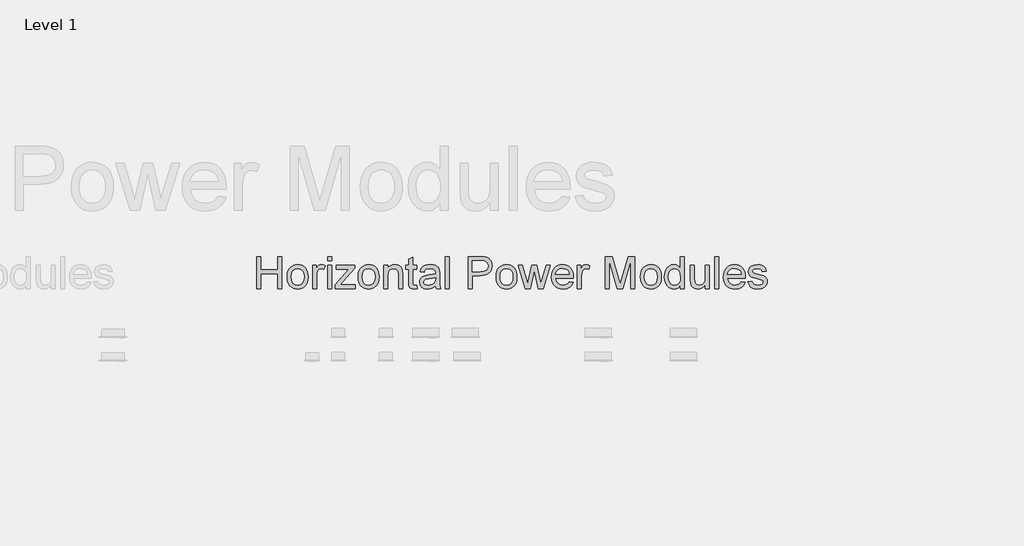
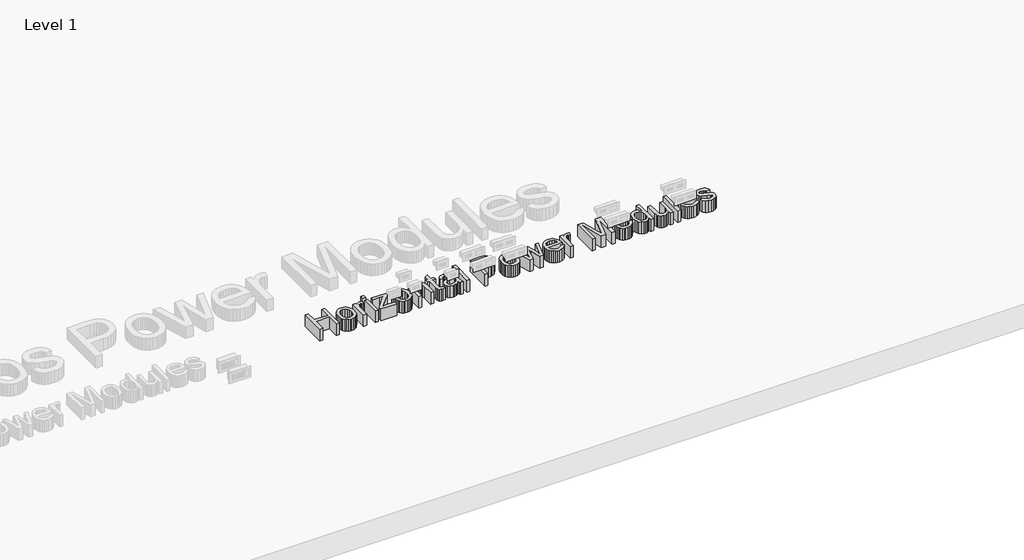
# One storey, part 19 of 22: 1 proxy.
"""IFC4 building model written with IfcOpenShell, lengths in millimetres."""

import ifcopenshell
import ifcopenshell.guid

model = None  # the IFC model being written
_history = None  # IfcOwnerHistory: only IFC2X3 demands one
_inside = {}  # id of a spatial element -> (the spatial element, [elements in it])
_under = {}  # id of a project, library or spatial element -> (it, [spatial elements below it])
_declared = {}  # id of a project -> (the project, [libraries it declares])
_typed = {}  # id of a type object -> (the type object, [elements of that type])
_made_of = {}  # id of a material, layer set ... -> (it, [elements and type objects made of it])


def new_model(schema):
    """Start an empty IFC model of exactly this schema.

    Asked for "IFC4X3", IfcOpenShell would pick the latest addendum, in which some entities
    have other attributes; the version numbers below select the first issue.
    IFC2X3 requires an IfcOwnerHistory on every rooted entity: one is made here for all.
    """
    global model, _history
    if schema == "IFC4X3":
        model = ifcopenshell.file(schema_version=(4, 3, 0, 0))
    else:
        model = ifcopenshell.file(schema=schema)
    _inside.clear()
    _under.clear()
    _declared.clear()
    _typed.clear()
    _made_of.clear()
    _history = None
    if model.schema == "IFC2X3":
        org = make("IfcOrganization", Name="unknown")
        user = make(
            "IfcPersonAndOrganization",
            ThePerson=make("IfcPerson", FamilyName="unknown"),
            TheOrganization=org,
        )
        app = make(
            "IfcApplication",
            ApplicationDeveloper=org,
            Version="unknown",
            ApplicationFullName="unknown",
            ApplicationIdentifier="unknown",
        )
        _history = make(
            "IfcOwnerHistory",
            OwningUser=user,
            OwningApplication=app,
            ChangeAction="ADDED",
            CreationDate=0,
        )
    return model


def make(cls, **values):
    """One entity of the class cls with the attributes given. An attribute that is None is left unset."""
    return model.create_entity(
        cls, **{name: value for name, value in values.items() if value is not None}
    )


def rooted(cls, **values):
    """An entity with a GlobalId (a new one), such as an element, a storey or a relation."""
    return make(cls, GlobalId=ifcopenshell.guid.new(), OwnerHistory=_history, **values)


def si_unit(unit_type, name, prefix=None):
    """IfcSIUnit, for example si_unit("LENGTHUNIT", "METRE", prefix="MILLI")."""
    return make("IfcSIUnit", UnitType=unit_type, Prefix=prefix, Name=name)


def assignment(units):
    """IfcUnitAssignment: the units of a project."""
    return None if units is None else make("IfcUnitAssignment", Units=units)


def point(xyz):
    """IfcCartesianPoint."""
    return None if xyz is None else make("IfcCartesianPoint", Coordinates=xyz)


def direction(xyz):
    """IfcDirection."""
    return None if xyz is None else make("IfcDirection", DirectionRatios=xyz)


def frame(location, z_axis=None, x_axis=None):
    """IfcAxis2Placement3D, a coordinate frame: its origin and axes. An axis left out is left unset."""
    return make(
        "IfcAxis2Placement3D",
        Location=point(location),
        Axis=direction(z_axis),
        RefDirection=direction(x_axis),
    )


def origin():
    """The frame at (0, 0, 0) with its axes left unset."""
    return frame((0.0, 0.0, 0.0))


def origin_with_axes():
    """The frame at (0, 0, 0) with the z axis (0, 0, 1) and the x axis (1, 0, 0) written out."""
    return frame((0.0, 0.0, 0.0), z_axis=(0.0, 0.0, 1.0), x_axis=(1.0, 0.0, 0.0))


def place(relative_to, where):
    """IfcLocalPlacement: puts the frame where relative to a parent placement (None: the world)."""
    return make(
        "IfcLocalPlacement", PlacementRelTo=relative_to, RelativePlacement=where
    )


def context(
    kind, dimensions, precision=None, world=None, true_north=None, identifier=None
):
    """IfcGeometricRepresentationContext, for example the 3D "Model" context."""
    return make(
        "IfcGeometricRepresentationContext",
        ContextIdentifier=identifier,
        ContextType=kind,
        CoordinateSpaceDimension=dimensions,
        Precision=precision,
        WorldCoordinateSystem=world,
        TrueNorth=true_north,
    )


def project(units=None, contexts=None):
    """IfcProject with its units and contexts."""
    return rooted(
        "IfcProject",
        Name="project",
        RepresentationContexts=contexts,
        UnitsInContext=assignment(units),
    )


def spatial(cls, under=None, at=None, **own):
    """A site, building, storey or space (cls), placed at a placement, below another one or the project."""
    s = rooted(cls, ObjectPlacement=at, **own)
    if under is not None:
        _under.setdefault(under.id(), (under, []))[1].append(s)
    return s


def polyline(points):
    """IfcPolyline through the points."""
    return make("IfcPolyline", Points=[point(p) for p in points])


def outline(outer, holes=None, kind="AREA"):
    """IfcArbitraryClosedProfileDef: a profile drawn as a closed curve; with holes, ...WithVoids."""
    if holes is None:
        return make("IfcArbitraryClosedProfileDef", ProfileType=kind, OuterCurve=outer)
    return make(
        "IfcArbitraryProfileDefWithVoids",
        ProfileType=kind,
        OuterCurve=outer,
        InnerCurves=holes,
    )


def extrude(swept, where, along, depth):
    """IfcExtrudedAreaSolid: the profile swept, set in the frame where, extruded along a direction by depth."""
    return make(
        "IfcExtrudedAreaSolid",
        SweptArea=swept,
        Position=where,
        ExtrudedDirection=direction(along),
        Depth=depth,
    )


def shape(context_of_items, identifier, shape_type, items):
    """IfcShapeRepresentation: the items that make up one representation, for example the "Body"."""
    return make(
        "IfcShapeRepresentation",
        ContextOfItems=context_of_items,
        RepresentationIdentifier=identifier,
        RepresentationType=shape_type,
        Items=items,
    )


def made_of(thing, what):
    """Note that an element or type object is made of a material, layer set ...; save() writes the relation."""
    if what is not None:
        _made_of.setdefault(what.id(), (what, []))[1].append(thing)
    return thing


def element(
    cls,
    number,
    at=None,
    inside=None,
    cuts=None,
    type_object=None,
    material=None,
    context=None,
    identifier="Body",
    shape_type=None,
    held_by="IfcProductDefinitionShape",
    body=None,
    shapes=None,
    **own,
):
    """One element of the class cls, such as IfcWall. Its Tag is "e" and its number.

    at: its placement. inside: the storey or other place that contains it. cuts: it is an
    opening in that element (IfcRelVoidsElement). A single representation is given by context,
    identifier, shape_type and body (its items); several are given by shapes. held_by: the class
    of the entity that holds the representations. save() writes the other relations.
    """
    e = rooted(cls, Tag="e%d" % number, ObjectPlacement=at, **own)
    if body is not None:
        shapes = [shape(context, identifier, shape_type, body)]
    if shapes is not None:
        e.Representation = make(held_by, Representations=shapes)
    if inside is not None:
        _inside.setdefault(inside.id(), (inside, []))[1].append(e)
    if cuts is not None:
        rooted(
            "IfcRelVoidsElement", RelatingBuildingElement=cuts, RelatedOpeningElement=e
        )
    if type_object is not None:
        _typed.setdefault(type_object.id(), (type_object, []))[1].append(e)
    return made_of(e, material)


def aggregate(whole, parts):
    """IfcRelAggregates: a whole, such as a stair, and the parts it consists of."""
    return rooted("IfcRelAggregates", RelatingObject=whole, RelatedObjects=parts)


def save(model, path):
    """Write the relations noted so far, then the file.

    IfcRelAggregates (storeys below a building ...), IfcRelContainedInSpatialStructure (elements
    in a storey), IfcRelDefinesByType, IfcRelAssociatesMaterial and IfcRelDeclares: one each for
    every whole, place, type object, material and project.
    """
    for whole, parts in _under.values():
        aggregate(whole, parts)
    for where, things in _inside.values():
        rooted(
            "IfcRelContainedInSpatialStructure",
            RelatedElements=things,
            RelatingStructure=where,
        )
    for kind, things in _typed.values():
        rooted("IfcRelDefinesByType", RelatedObjects=things, RelatingType=kind)
    for what, things in _made_of.values():
        rooted("IfcRelAssociatesMaterial", RelatedObjects=things, RelatingMaterial=what)
    for by, libraries in _declared.values():
        rooted("IfcRelDeclares", RelatingContext=by, RelatedDefinitions=libraries)
    model.write(path)


model = new_model("IFC4")

# Units and contexts
model_context = context("Model", 3, world=origin())
ifc_project = project(units=[si_unit("LENGTHUNIT", "METRE", prefix="MILLI")], contexts=[model_context])

# Site, building, storey
site = spatial("IfcSite", under=ifc_project)
building = spatial("IfcBuilding", under=site)
storey = spatial("IfcBuildingStorey", under=building, Name="Level 1", Elevation=0.0)

# Proxy
placement = place(None, origin())
element("IfcBuildingElementProxy", 1, Name="12\" Arial", ObjectType="12\" Arial", at=placement, inside=storey, context=model_context, shape_type="SweptSolid", body=[
    extrude(outline(polyline([(-12876.4764177, -4815.0855238), (-12876.4764177, -4510.5184297), (-12838.405531, -4510.5184297), (-12838.405531, -4634.2488117), (-12676.6042623, -4634.2488117), (-12676.6042623, -4510.5184297), (-12638.5333755, -4510.5184297), (-12638.5333755, -4815.0855238), (-12676.6042623, -4815.0855238), (-12676.6042623, -4672.3196984), (-12838.405531, -4672.3196984), (-12838.405531, -4815.0855238), (-12876.4764177, -4815.0855238)])), origin_with_axes(), (0.0, 0.0, 1.0), 152.4),
    extrude(outline(polyline([(-12586.1859062, -4703.2522939), (-12584.1271412, -4674.2855169), (-12577.9508462, -4649.3247341), (-12567.6570213, -4628.3699455), (-12553.2456663, -4611.4211511), (-12538.7367175, -4600.5882364), (-12522.7220354, -4592.8504402), (-12505.20162, -4588.2077625), (-12486.1754713, -4586.6602032), (-12465.1718857, -4588.5446935), (-12446.1805919, -4594.1981644), (-12429.2015899, -4603.620616), (-12414.2348796, -4616.8120481), (-12402.0193857, -4633.3263176), (-12393.2940329, -4652.7172814), (-12388.0588213, -4674.9849393), (-12386.3137507, -4700.1292915), (-12389.3995746, -4738.5905535), (-12398.657046, -4767.8687013), (-12413.8166203, -4789.7947809), (-12434.6087526, -4806.1998383), (-12459.3046379, -4816.433248), (-12486.1754713, -4819.8443846), (-12507.4857803, -4817.9668653), (-12526.6536724, -4812.3343073), (-12543.6791477, -4802.9467108), (-12558.5622062, -4789.8040755), (-12570.6475749, -4773.1294733), (-12579.2799812, -4753.1459756), (-12584.459425, -4729.8535825), (-12586.1859062, -4703.2522939)]), holes=[polyline([(-12548.1150195, -4703.1779367), (-12543.7093553, -4737.6332046), (-12530.4923629, -4762.1803755), (-12510.6018117, -4776.8752173), (-12486.1754713, -4781.7734979), (-12461.8606666, -4776.8473333), (-12442.0072941, -4762.0688397), (-12428.7903016, -4737.196356), (-12424.3846375, -4701.9882215), (-12428.8181856, -4668.5367758), (-12442.1188299, -4644.3242124), (-12462.0000864, -4629.6293706), (-12486.1754713, -4624.73109), (-12510.6018117, -4629.6107813), (-12530.4923629, -4644.2498552), (-12543.7093553, -4668.7412581), (-12548.1150195, -4703.1779367)])]), origin_with_axes(), (0.0, 0.0, 1.0), 152.4),
    extrude(outline(polyline([(-12343.4840031, -4815.0855238), (-12343.4840031, -4591.4190641), (-12310.1719772, -4591.4190641), (-12310.1719772, -4624.5080184), (-12297.8658605, -4605.3238606), (-12286.5263874, -4594.0215661), (-12275.1497357, -4588.5005439), (-12262.7320832, -4586.6602032), (-12243.770997, -4589.5973126), (-12224.512482, -4598.4086409), (-12237.2275633, -4632.5385961), (-12250.6118595, -4626.6829665), (-12263.9961556, -4624.73109), (-12275.3635126, -4626.6086093), (-12285.5225652, -4632.2411672), (-12293.7297412, -4641.2012099), (-12299.2414687, -4653.0611834), (-12303.8702045, -4674.3273428), (-12305.4131164, -4697.5267895), (-12305.4131164, -4815.0855238), (-12343.4840031, -4815.0855238)])), origin_with_axes(), (0.0, 0.0, 1.0), 152.4),
    extrude(outline(polyline([(-12200.7181778, -4815.0855238), (-12200.7181778, -4591.4190641), (-12162.647291, -4591.4190641), (-12162.647291, -4815.0855238), (-12200.7181778, -4815.0855238)])), origin_with_axes(), (0.0, 0.0, 1.0), 152.4),
    extrude(outline(polyline([(-12200.7181778, -4548.5893165), (-12200.7181778, -4510.5184297), (-12162.647291, -4510.5184297), (-12162.647291, -4548.5893165), (-12200.7181778, -4548.5893165)])), origin_with_axes(), (0.0, 0.0, 1.0), 152.4),
    extrude(outline(polyline([(-12129.3352651, -4815.0855238), (-12129.3352651, -4779.245353), (-11997.9460915, -4629.4899508), (-12036.8349074, -4629.4899508), (-12119.8175434, -4629.4899508), (-12119.8175434, -4591.4190641), (-11943.7396922, -4591.4190641), (-11943.7396922, -4623.7644464), (-12060.2574257, -4756.640764), (-12078.1031538, -4777.014637), (-12034.083691, -4777.014637), (-11938.9808313, -4777.014637), (-11938.9808313, -4815.0855238), (-12129.3352651, -4815.0855238)])), origin_with_axes(), (0.0, 0.0, 1.0), 152.4),
    extrude(outline(polyline([(-11910.4276662, -4703.2522939), (-11908.3689013, -4674.2855169), (-11902.1926063, -4649.3247341), (-11891.8987813, -4628.3699455), (-11877.4874263, -4611.4211511), (-11862.9784776, -4600.5882364), (-11846.9637955, -4592.8504402), (-11829.44338, -4588.2077625), (-11810.4172313, -4586.6602032), (-11789.4136458, -4588.5446935), (-11770.422352, -4594.1981644), (-11753.4433499, -4603.620616), (-11738.4766396, -4616.8120481), (-11726.2611458, -4633.3263176), (-11717.535793, -4652.7172814), (-11712.3005813, -4674.9849393), (-11710.5555108, -4700.1292915), (-11713.6413346, -4738.5905535), (-11722.8988061, -4767.8687013), (-11738.0583804, -4789.7947809), (-11758.8505126, -4806.1998383), (-11783.5463979, -4816.433248), (-11810.4172313, -4819.8443846), (-11831.7275403, -4817.9668653), (-11850.8954324, -4812.3343073), (-11867.9209077, -4802.9467108), (-11882.8039662, -4789.8040755), (-11894.889335, -4773.1294733), (-11903.5217412, -4753.1459756), (-11908.701185, -4729.8535825), (-11910.4276662, -4703.2522939)]), holes=[polyline([(-11872.3567795, -4703.1779367), (-11867.9511153, -4737.6332046), (-11854.7341229, -4762.1803755), (-11834.8435717, -4776.8752173), (-11810.4172313, -4781.7734979), (-11786.1024267, -4776.8473333), (-11766.2490541, -4762.0688397), (-11753.0320617, -4737.196356), (-11748.6263975, -4701.9882215), (-11753.0599456, -4668.5367758), (-11766.3605899, -4644.3242124), (-11786.2418464, -4629.6293706), (-11810.4172313, -4624.73109), (-11834.8435717, -4629.6107813), (-11854.7341229, -4644.2498552), (-11867.9511153, -4668.7412581), (-11872.3567795, -4703.1779367)])]), origin_with_axes(), (0.0, 0.0, 1.0), 152.4),
    extrude(outline(polyline([(-11667.7257632, -4815.0855238), (-11667.7257632, -4591.4190641), (-11629.6548764, -4591.4190641), (-11629.6548764, -4622.6490884), (-11616.4285893, -4606.9039511), (-11600.5440323, -4595.6574245), (-11582.0012054, -4588.9095085), (-11560.8001086, -4586.6602032), (-11542.03421, -4588.47266), (-11524.848402, -4593.9100303), (-11510.5160516, -4602.2938047), (-11500.3105258, -4612.9454737), (-11488.8966955, -4640.9409597), (-11486.8890511, -4677.7477741), (-11486.8890511, -4815.0855238), (-11524.9599378, -4815.0855238), (-11524.9599378, -4682.8784209), (-11529.3470127, -4649.194609), (-11535.4164192, -4639.1656816), (-11544.850489, -4631.3860594), (-11556.9428288, -4626.3948323), (-11570.9870451, -4624.73109), (-11593.2849106, -4628.4675393), (-11612.29247, -4639.6768873), (-11619.8885228, -4648.8274703), (-11625.3142748, -4661.333422), (-11629.6548764, -4696.4114315), (-11629.6548764, -4815.0855238), (-11667.7257632, -4815.0855238)])), origin_with_axes(), (0.0, 0.0, 1.0), 152.4),
    extrude(outline(polyline([(-11353.6409474, -4783.3349991), (-11348.8820866, -4816.2008818), (-11377.3608944, -4819.8443846), (-11395.6341765, -4818.2642941), (-11409.2601335, -4813.5240226), (-11418.889391, -4806.2184276), (-11425.1725745, -4796.9423668), (-11428.6301843, -4781.0113365), (-11429.7827209, -4753.7408332), (-11429.7827209, -4629.4899508), (-11458.335886, -4629.4899508), (-11458.335886, -4591.4190641), (-11429.7827209, -4591.4190641), (-11429.7827209, -4537.0639504), (-11391.7118342, -4514.6824329), (-11391.7118342, -4591.4190641), (-11353.6409474, -4591.4190641), (-11353.6409474, -4629.4899508), (-11391.7118342, -4629.4899508), (-11391.7118342, -4752.6254752), (-11389.7041897, -4772.2557762), (-11383.1979347, -4779.2081744), (-11370.2226032, -4781.7734979), (-11353.6409474, -4783.3349991)])), origin_with_axes(), (0.0, 0.0, 1.0), 152.4),
    extrude(outline(polyline([(-11172.8042353, -4786.5323587), (-11190.9938655, -4802.1287815), (-11209.7225854, -4812.3343073), (-11229.417949, -4817.9668653), (-11250.50751, -4819.8443846), (-11282.3230973, -4815.3271847), (-11305.7920888, -4801.7755848), (-11320.2638589, -4781.1972296), (-11325.0877823, -4755.5997632), (-11323.2660309, -4739.8174474), (-11317.8007767, -4725.4850969), (-11309.370529, -4713.2161588), (-11298.6537975, -4703.6240799), (-11271.996741, -4691.1320702), (-11239.0565011, -4685.4065657), (-11200.1305066, -4679.3836325), (-11173.0273069, -4672.3196984), (-11172.8042353, -4663.8429775), (-11175.4253266, -4646.8523572), (-11183.2886006, -4635.7359557), (-11200.8740786, -4627.4823064), (-11225.3747762, -4624.73109), (-11248.0537224, -4626.562136), (-11263.8918062, -4632.0552742), (-11274.6921896, -4642.2143268), (-11282.2580347, -4658.0431159), (-11320.3289215, -4653.284255), (-11313.7204253, -4632.4642388), (-11303.8588015, -4616.1056547), (-11289.8238799, -4603.5950557), (-11270.69549, -4594.3189949), (-11247.3008558, -4588.5749011), (-11220.467201, -4586.6602032), (-11194.7303149, -4588.3518295), (-11174.3285579, -4593.4267085), (-11158.945912, -4601.0576162), (-11148.2663591, -4610.4173288), (-11141.1838357, -4621.9891682), (-11136.5922786, -4636.2564561), (-11134.7333485, -4669.568482), (-11134.7333485, -4716.9340188), (-11132.8000613, -4783.0747489), (-11125.2156269, -4815.0855238), (-11163.2865136, -4815.0855238), (-11169.3838041, -4801.849942), (-11172.8042353, -4786.5323587)]), holes=[polyline([(-11172.8042353, -4710.3905852), (-11234.2232831, -4722.0646657), (-11266.97763, -4728.2363134), (-11281.8118915, -4738.2745354), (-11287.0168956, -4752.922904), (-11284.1820273, -4764.2437878), (-11275.6774225, -4773.5198486), (-11261.6889741, -4779.7100855), (-11242.4025752, -4781.7734979), (-11221.954345, -4779.4963086), (-11203.8855452, -4772.6647408), (-11189.2371767, -4762.5986347), (-11179.0502402, -4750.6178308), (-11174.5330402, -4738.2745354), (-11173.0273069, -4721.1723793), (-11172.8042353, -4710.3905852)])]), origin_with_axes(), (0.0, 0.0, 1.0), 152.4),
    extrude(outline(polyline([(-11082.3858793, -4815.0855238), (-11082.3858793, -4510.5184297), (-11044.3149925, -4510.5184297), (-11044.3149925, -4815.0855238), (-11082.3858793, -4815.0855238)])), origin_with_axes(), (0.0, 0.0, 1.0), 152.4),
    extrude(outline(polyline([(-10863.4782804, -4815.0855238), (-10863.4782804, -4510.5184297), (-10750.6040497, -4510.5184297), (-10705.0974429, -4513.4183605), (-10684.8072218, -4518.8371415), (-10668.1047355, -4527.6577645), (-10654.6553769, -4540.2798993), (-10644.1245383, -4557.1032159), (-10637.3208545, -4576.9472939), (-10635.0529598, -4598.6317125), (-10636.5842534, -4617.3279012), (-10641.1781342, -4634.5276512), (-10648.8346023, -4650.2309625), (-10659.5536575, -4664.4378352), (-10674.2694122, -4676.2141568), (-10693.9159788, -4684.6258151), (-10718.4933573, -4689.6728101), (-10748.0015477, -4691.3551418), (-10825.4073936, -4691.3551418), (-10825.4073936, -4815.0855238), (-10863.4782804, -4815.0855238)]), holes=[polyline([(-10825.4073936, -4653.284255), (-10745.7708317, -4653.284255), (-10712.0126626, -4649.7894666), (-10689.7055024, -4639.3051013), (-10677.2692605, -4622.4817847), (-10673.1238466, -4599.9701421), (-10675.5683396, -4582.867986), (-10682.9018185, -4568.442689), (-10694.2134076, -4557.5865377), (-10708.5922313, -4551.1918185), (-10746.6631181, -4548.5893165), (-10825.4073936, -4548.5893165), (-10825.4073936, -4653.284255)])]), origin_with_axes(), (0.0, 0.0, 1.0), 152.4),
    extrude(outline(polyline([(-10596.9820731, -4703.2522939), (-10594.9233081, -4674.2855169), (-10588.7470131, -4649.3247341), (-10578.4531881, -4628.3699455), (-10564.0418332, -4611.4211511), (-10549.5328844, -4600.5882364), (-10533.5182023, -4592.8504402), (-10515.9977869, -4588.2077625), (-10496.9716381, -4586.6602032), (-10475.9680526, -4588.5446935), (-10456.9767588, -4594.1981644), (-10439.9977568, -4603.620616), (-10425.0310465, -4616.8120481), (-10412.8155526, -4633.3263176), (-10404.0901998, -4652.7172814), (-10398.8549882, -4674.9849393), (-10397.1099176, -4700.1292915), (-10400.1957414, -4738.5905535), (-10409.4532129, -4767.8687013), (-10424.6127872, -4789.7947809), (-10445.4049195, -4806.1998383), (-10470.1008047, -4816.433248), (-10496.9716381, -4819.8443846), (-10518.2819471, -4817.9668653), (-10537.4498393, -4812.3343073), (-10554.4753146, -4802.9467108), (-10569.358373, -4789.8040755), (-10581.4437418, -4773.1294733), (-10590.0761481, -4753.1459756), (-10595.2555918, -4729.8535825), (-10596.9820731, -4703.2522939)]), holes=[polyline([(-10558.9111863, -4703.1779367), (-10554.5055222, -4737.6332046), (-10541.2885298, -4762.1803755), (-10521.3979786, -4776.8752173), (-10496.9716381, -4781.7734979), (-10472.6568335, -4776.8473333), (-10452.8034609, -4762.0688397), (-10439.5864685, -4737.196356), (-10435.1808044, -4701.9882215), (-10439.6143524, -4668.5367758), (-10452.9149967, -4644.3242124), (-10472.7962533, -4629.6293706), (-10496.9716381, -4624.73109), (-10521.3979786, -4629.6107813), (-10541.2885298, -4644.2498552), (-10554.5055222, -4668.7412581), (-10558.9111863, -4703.1779367)])]), origin_with_axes(), (0.0, 0.0, 1.0), 152.4),
    extrude(outline(polyline([(-10317.1759268, -4815.0855238), (-10385.2127655, -4591.4190641), (-10345.6547347, -4591.4190641), (-10307.0633475, -4721.9159513), (-10295.5379814, -4768.5379161), (-10286.094617, -4723.6261669), (-10255.3850931, -4591.4190641), (-10210.0272006, -4591.4190641), (-10179.4663911, -4723.2543809), (-10171.0640275, -4763.9277697), (-10159.018161, -4721.0236649), (-10120.3524166, -4591.4190641), (-10080.6456714, -4591.4190641), (-10149.2030105, -4815.0855238), (-10195.2301177, -4815.0855238), (-10224.4524976, -4683.9194217), (-10232.9292185, -4643.0229613), (-10270.6283192, -4815.0855238), (-10317.1759268, -4815.0855238)])), origin_with_axes(), (0.0, 0.0, 1.0), 152.4),
    extrude(outline(polyline([(-9897.8756721, -4748.4614719), (-9860.5483573, -4753.2203328), (-9873.997716, -4781.345944), (-9895.4590631, -4802.3704424), (-9924.4490767, -4815.4758991), (-9960.4844351, -4819.8443846), (-9984.1067883, -4817.9598943), (-10005.1545234, -4812.3064234), (-10023.6276405, -4802.8839719), (-10039.5261394, -4789.6925397), (-10052.3109306, -4773.0992657), (-10061.4429243, -4753.4712883), (-10066.9221206, -4730.8086078), (-10068.7485193, -4705.1112239), (-10066.9035313, -4678.5424667), (-10061.3685671, -4655.1245958), (-10052.1436269, -4634.8576112), (-10039.2287106, -4617.7415131), (-10023.3720376, -4604.14344), (-10005.3218271, -4594.4305307), (-9985.0780792, -4588.6027851), (-9962.6407939, -4586.6602032), (-9940.9261676, -4588.5981378), (-9921.2888957, -4594.4119414), (-9903.728978, -4604.1016141), (-9888.2464146, -4617.6671559), (-9875.6080141, -4634.7460754), (-9866.5805853, -4654.9758814), (-9861.1641279, -4678.3565737), (-9859.3586421, -4704.8881523), (-9859.5817137, -4715.149446), (-10030.6776325, -4715.149446), (-10024.0877256, -4743.6468432), (-10008.7794369, -4764.5969845), (-9986.6860537, -4777.4793695), (-9959.7408631, -4781.7734979), (-9939.4785259, -4779.7844427), (-9922.4135483, -4773.8172774), (-9908.5459304, -4763.5002158), (-9897.8756721, -4748.4614719)]), holes=[polyline([(-10030.6776325, -4677.0785593), (-9897.4295289, -4677.0785593), (-9902.578765, -4656.9649365), (-9912.672755, -4642.5768181), (-9934.8683794, -4629.192522), (-9962.7895083, -4624.73109), (-9988.4520372, -4628.290941), (-10009.6717233, -4638.9704939), (-10024.422333, -4655.6172122), (-10030.6776325, -4677.0785593)])]), origin_with_axes(), (0.0, 0.0, 1.0), 152.4),
    extrude(outline(polyline([(-9821.2877554, -4815.0855238), (-9821.2877554, -4591.4190641), (-9787.9757295, -4591.4190641), (-9787.9757295, -4624.5080184), (-9775.6696127, -4605.3238606), (-9764.3301396, -4594.0215661), (-9752.9534879, -4588.5005439), (-9740.5358354, -4586.6602032), (-9721.5747492, -4589.5973126), (-9702.3162343, -4598.4086409), (-9715.0313156, -4632.5385961), (-9728.4156117, -4626.6829665), (-9741.7999078, -4624.73109), (-9753.1672649, -4626.6086093), (-9763.3263174, -4632.2411672), (-9771.5334935, -4641.2012099), (-9777.045221, -4653.0611834), (-9781.6739567, -4674.3273428), (-9783.2168686, -4697.5267895), (-9783.2168686, -4815.0855238), (-9821.2877554, -4815.0855238)])), origin_with_axes(), (0.0, 0.0, 1.0), 152.4),
    extrude(outline(polyline([(-9554.7915481, -4815.0855238), (-9554.7915481, -4510.5184297), (-9489.2828542, -4510.5184297), (-9426.9715201, -4725.1876681), (-9414.4051531, -4770.0250601), (-9400.7977854, -4721.4698081), (-9339.527452, -4510.5184297), (-9274.0187582, -4510.5184297), (-9274.0187582, -4815.0855238), (-9312.089645, -4815.0855238), (-9312.089645, -4548.5893165), (-9388.6032045, -4815.0855238), (-9440.2071018, -4815.0855238), (-9516.7206613, -4548.5893165), (-9516.7206613, -4815.0855238), (-9554.7915481, -4815.0855238)])), origin_with_axes(), (0.0, 0.0, 1.0), 152.4),
    extrude(outline(polyline([(-9221.6712889, -4703.2522939), (-9219.6125239, -4674.2855169), (-9213.4362289, -4649.3247341), (-9203.142404, -4628.3699455), (-9188.731049, -4611.4211511), (-9174.2221002, -4600.5882364), (-9158.2074181, -4592.8504402), (-9140.6870027, -4588.2077625), (-9121.660854, -4586.6602032), (-9100.6572684, -4588.5446935), (-9081.6659747, -4594.1981644), (-9064.6869726, -4603.620616), (-9049.7202623, -4616.8120481), (-9037.5047684, -4633.3263176), (-9028.7794157, -4652.7172814), (-9023.544204, -4674.9849393), (-9021.7991334, -4700.1292915), (-9024.8849573, -4738.5905535), (-9034.1424288, -4767.8687013), (-9049.3020031, -4789.7947809), (-9070.0941353, -4806.1998383), (-9094.7900206, -4816.433248), (-9121.660854, -4819.8443846), (-9142.971163, -4817.9668653), (-9162.1390551, -4812.3343073), (-9179.1645304, -4802.9467108), (-9194.0475889, -4789.8040755), (-9206.1329576, -4773.1294733), (-9214.7653639, -4753.1459756), (-9219.9448077, -4729.8535825), (-9221.6712889, -4703.2522939)]), holes=[polyline([(-9183.6004022, -4703.1779367), (-9179.194738, -4737.6332046), (-9165.9777456, -4762.1803755), (-9146.0871944, -4776.8752173), (-9121.660854, -4781.7734979), (-9097.3460494, -4776.8473333), (-9077.4926768, -4762.0688397), (-9064.2756843, -4737.196356), (-9059.8700202, -4701.9882215), (-9064.3035683, -4668.5367758), (-9077.6042126, -4644.3242124), (-9097.4854691, -4629.6293706), (-9121.660854, -4624.73109), (-9146.0871944, -4629.6107813), (-9165.9777456, -4644.2498552), (-9179.194738, -4668.7412581), (-9183.6004022, -4703.1779367)])]), origin_with_axes(), (0.0, 0.0, 1.0), 152.4),
    extrude(outline(polyline([(-8840.9624213, -4815.0855238), (-8840.9624213, -4779.1709958), (-8852.353015, -4796.9656034), (-8866.1509231, -4809.6760374), (-8882.3561455, -4817.3022978), (-8900.9686823, -4819.8443846), (-8925.5809157, -4816.1637032), (-8948.1111476, -4805.1216589), (-8967.1837695, -4787.4897077), (-8981.4231735, -4764.0393055), (-8990.2902696, -4735.7185067), (-8993.2459684, -4703.4753655), (-8990.5226359, -4671.6318943), (-8982.3526385, -4642.8742469), (-8968.7452707, -4618.8382818), (-8949.7098274, -4601.1598574), (-8926.6869791, -4590.2851168), (-8901.1173967, -4586.6602032), (-8882.4909179, -4589.2534106), (-8866.020798, -4597.0330327), (-8852.0602335, -4608.9580688), (-8840.9624213, -4623.987518), (-8840.9624213, -4510.5184297), (-8802.8915346, -4510.5184297), (-8802.8915346, -4815.0855238), (-8840.9624213, -4815.0855238)]), holes=[polyline([(-8955.1750816, -4703.3266511), (-8950.8809533, -4737.7633297), (-8937.9985683, -4762.2547327), (-8919.279143, -4776.8938066), (-8897.4738939, -4781.7734979), (-8875.6779394, -4777.1168782), (-8857.4325413, -4763.1470191), (-8845.0799513, -4739.6036704), (-8840.9624213, -4706.2265819), (-8845.1543085, -4669.7357857), (-8857.7299701, -4644.4357482), (-8876.4401007, -4629.6572545), (-8899.0353951, -4624.73109), (-8921.0637158, -4629.4620669), (-8939.1139263, -4643.6549976), (-8951.1597928, -4668.0348647), (-8955.1750816, -4703.3266511)])]), origin_with_axes(), (0.0, 0.0, 1.0), 152.4),
    extrude(outline(polyline([(-8603.0193791, -4815.0855238), (-8603.0193791, -4776.642851), (-8616.7940505, -4795.543522), (-8632.8366166, -4809.0440012), (-8651.1470773, -4817.1442888), (-8671.7254325, -4819.8443846), (-8690.2682595, -4817.948276), (-8707.5284247, -4812.2599501), (-8722.0094895, -4803.7088721), (-8732.2150153, -4793.2245068), (-8739.0837617, -4780.4908361), (-8743.5544884, -4765.1918421), (-8745.7852044, -4729.7978146), (-8745.7852044, -4591.4190641), (-8707.7143177, -4591.4190641), (-8707.7143177, -4711.8777292), (-8705.4092445, -4750.692188), (-8699.8603384, -4763.6396355), (-8690.3519113, -4773.48267), (-8677.5159996, -4779.7007909), (-8661.9846393, -4781.7734979), (-8645.5609926, -4779.6543176), (-8630.196936, -4773.296777), (-8617.5283279, -4763.2864388), (-8609.1910268, -4750.2088662), (-8604.562291, -4732.2980754), (-8603.0193791, -4707.7880832), (-8603.0193791, -4591.4190641), (-8564.9484923, -4591.4190641), (-8564.9484923, -4815.0855238), (-8603.0193791, -4815.0855238)])), origin_with_axes(), (0.0, 0.0, 1.0), 152.4),
    extrude(outline(polyline([(-8512.601023, -4815.0855238), (-8512.601023, -4510.5184297), (-8474.5301363, -4510.5184297), (-8474.5301363, -4815.0855238), (-8512.601023, -4815.0855238)])), origin_with_axes(), (0.0, 0.0, 1.0), 152.4),
    extrude(outline(polyline([(-8260.8275415, -4748.4614719), (-8223.5002267, -4753.2203328), (-8236.9495854, -4781.345944), (-8258.4109325, -4802.3704424), (-8287.4009461, -4815.4758991), (-8323.4363045, -4819.8443846), (-8347.0586577, -4817.9598943), (-8368.1063928, -4812.3064234), (-8386.5795098, -4802.8839719), (-8402.4780088, -4789.6925397), (-8415.2628, -4773.0992657), (-8424.3947937, -4753.4712883), (-8429.8739899, -4730.8086078), (-8431.7003887, -4705.1112239), (-8429.8554006, -4678.5424667), (-8424.3204365, -4655.1245958), (-8415.0954963, -4634.8576112), (-8402.18058, -4617.7415131), (-8386.323907, -4604.14344), (-8368.2736965, -4594.4305307), (-8348.0299486, -4588.6027851), (-8325.5926633, -4586.6602032), (-8303.878037, -4588.5981378), (-8284.240765, -4594.4119414), (-8266.6808474, -4604.1016141), (-8251.198284, -4617.6671559), (-8238.5598835, -4634.7460754), (-8229.5324546, -4654.9758814), (-8224.1159973, -4678.3565737), (-8222.3105115, -4704.8881523), (-8222.5335831, -4715.149446), (-8393.6295019, -4715.149446), (-8387.039595, -4743.6468432), (-8371.7313063, -4764.5969845), (-8349.6379231, -4777.4793695), (-8322.6927325, -4781.7734979), (-8302.4303953, -4779.7844427), (-8285.3654177, -4773.8172774), (-8271.4977998, -4763.5002158), (-8260.8275415, -4748.4614719)]), holes=[polyline([(-8393.6295019, -4677.0785593), (-8260.3813983, -4677.0785593), (-8265.5306344, -4656.9649365), (-8275.6246244, -4642.5768181), (-8297.8202488, -4629.192522), (-8325.7413777, -4624.73109), (-8351.4039066, -4628.290941), (-8372.6235927, -4638.9704939), (-8387.3742024, -4655.6172122), (-8393.6295019, -4677.0785593)])]), origin_with_axes(), (0.0, 0.0, 1.0), 152.4),
    extrude(outline(polyline([(-8198.5162073, -4748.4614719), (-8160.4453205, -4743.7026111), (-8154.4409766, -4759.9868381), (-8142.822664, -4771.9583474), (-8125.5160255, -4779.3197102), (-8102.446704, -4781.7734979), (-8079.656222, -4779.5241925), (-8063.6322452, -4772.7762766), (-8054.1517021, -4762.9983047), (-8050.9915211, -4751.6588316), (-8054.1702914, -4741.9552169), (-8063.7066024, -4734.5566754), (-8102.8928472, -4723.7005241), (-8160.2222489, -4705.0740453), (-8174.7311977, -4695.7143327), (-8185.243447, -4683.3245641), (-8191.6288716, -4668.6947849), (-8193.7573464, -4652.6150402), (-8192.0471308, -4637.8644306), (-8186.916484, -4624.2477682), (-8178.8301384, -4612.3041428), (-8168.2528266, -4602.5726442), (-8144.0495578, -4591.3075283), (-8111.2952109, -4586.6602032), (-8086.5156737, -4588.5284279), (-8064.9706748, -4594.1331019), (-8047.6454471, -4602.9258409), (-8035.5252234, -4614.3582605), (-8027.4946457, -4629.2761739), (-8022.438356, -4648.5253942), (-8060.5092428, -4653.284255), (-8065.3145769, -4641.3034511), (-8074.8230039, -4632.2783458), (-8089.1274704, -4626.6179039), (-8108.3209228, -4624.73109), (-8130.1819398, -4626.5342521), (-8144.7559512, -4631.9437384), (-8152.9538326, -4639.7512445), (-8155.6864597, -4648.7484658), (-8151.1506704, -4659.8276887), (-8136.9484451, -4668.2300524), (-8104.1569196, -4676.3349873), (-8048.2774833, -4694.2550726), (-8033.5175789, -4702.82474), (-8022.3268202, -4714.5545884), (-8015.2721808, -4729.4817965), (-8012.9206343, -4747.6435427), (-8015.6811454, -4766.4187359), (-8023.9626786, -4784.0785711), (-8037.4492159, -4799.2381454), (-8055.8247391, -4810.5125559), (-8078.0203636, -4817.5114274), (-8102.9672044, -4819.8443846), (-8141.3541093, -4815.345774), (-8169.3681846, -4801.849942), (-8188.0690206, -4779.5056032), (-8198.5162073, -4748.4614719)])), origin_with_axes(), (0.0, 0.0, 1.0), 152.4),
])

save(model, "model.ifc")
